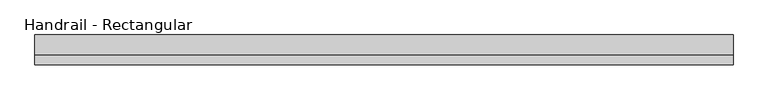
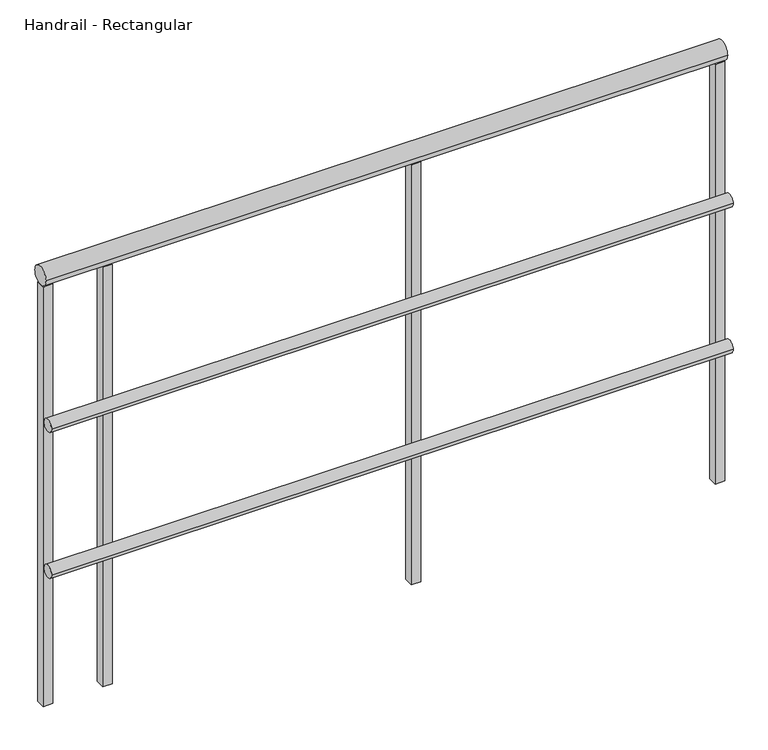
"""IFC4 building model written with IfcOpenShell, lengths in millimetres: railing geometry, Handrail - Rectangular."""

from ifc_helpers import new_model, si_unit, point, frame, frame_2d, origin, place, context, project, spatial, polyline, circle_curve, trimmed, segment, composite_curve, outline, extrude, source, transform, mapped, element, save


def handrail_rectangular_141b720c(model_context):
    return source(origin(), model_context, "Body", "SweptSolid", [
        extrude(outline(composite_curve([segment(trimmed(circle_curve(frame_2d((-35578.5683133, 3644.9)), 12.7), [point((-35591.2683133, 3644.9))], [point((-35565.8683133, 3644.9))], False, "CARTESIAN"), True, "CONTINUOUS"), segment(trimmed(circle_curve(frame_2d((-35578.5683133, 3644.9)), 12.7), [point((-35565.8683133, 3644.9))], [point((-35591.2683133, 3644.9))], False, "CARTESIAN"), True, "CONTINUOUS")], self_intersect=False)), frame((-25550.7839563, 0.0, 0.0), z_axis=(1.0, 0.0, 0.0), x_axis=(0.0, 1.0, 0.0)), (0.0, 0.0, 1.0), 1346.2),
        extrude(outline(composite_curve([segment(trimmed(circle_curve(frame_2d((-35578.5683133, 3340.1)), 12.7), [point((-35591.2683133, 3340.1))], [point((-35565.8683133, 3340.1))], False, "CARTESIAN"), True, "CONTINUOUS"), segment(trimmed(circle_curve(frame_2d((-35578.5683133, 3340.1)), 12.7), [point((-35565.8683133, 3340.1))], [point((-35591.2683133, 3340.1))], False, "CARTESIAN"), True, "CONTINUOUS")], self_intersect=False)), frame((-25550.7839563, 0.0, 0.0), z_axis=(1.0, 0.0, 0.0), x_axis=(0.0, 1.0, 0.0)), (0.0, 0.0, 1.0), 1346.2),
        extrude(outline(composite_curve([segment(trimmed(circle_curve(frame_2d((-35553.1683133, 3943.35)), 19.05), [point((-35572.2183133, 3943.35))], [point((-35534.1183133, 3943.35))], False, "CARTESIAN"), True, "CONTINUOUS"), segment(trimmed(circle_curve(frame_2d((-35553.1683133, 3943.35)), 19.05), [point((-35534.1183133, 3943.35))], [point((-35572.2183133, 3943.35))], False, "CARTESIAN"), True, "CONTINUOUS")], self_intersect=False)), frame((-25550.7839563, 0.0, 0.0), z_axis=(1.0, 0.0, 0.0), x_axis=(0.0, 1.0, 0.0)), (0.0, 0.0, 1.0), 1346.2),
        extrude(outline(polyline([(-25414.2589563, -35543.6433133), (-25414.2589563, -35562.6933133), (-25433.3089563, -35562.6933133), (-25433.3089563, -35543.6433133), (-25414.2589563, -35543.6433133)])), frame((0.0, 0.0, 3048.0), z_axis=(0.0, 0.0, 1.0), x_axis=(1.0, 0.0, 0.0)), (0.0, 0.0, 1.0), 876.3),
        extrude(outline(polyline([(-24804.6589563, -35543.6433133), (-24804.6589563, -35562.6933133), (-24823.7089563, -35562.6933133), (-24823.7089563, -35543.6433133), (-24804.6589563, -35543.6433133)])), frame((0.0, 0.0, 3048.0), z_axis=(0.0, 0.0, 1.0), x_axis=(1.0, 0.0, 0.0)), (0.0, 0.0, 1.0), 876.3),
        extrude(outline(polyline([(-25531.7339563, -35543.6433133), (-25531.7339563, -35562.6933133), (-25550.7839563, -35562.6933133), (-25550.7839563, -35543.6433133), (-25531.7339563, -35543.6433133)])), frame((0.0, 0.0, 3048.0), z_axis=(0.0, 0.0, 1.0), x_axis=(1.0, 0.0, 0.0)), (0.0, 0.0, 1.0), 876.3),
        extrude(outline(polyline([(-24204.5839563, -35543.6433133), (-24204.5839563, -35562.6933133), (-24223.6339563, -35562.6933133), (-24223.6339563, -35543.6433133), (-24204.5839563, -35543.6433133)])), frame((0.0, 0.0, 3048.0), z_axis=(0.0, 0.0, 1.0), x_axis=(1.0, 0.0, 0.0)), (0.0, 0.0, 1.0), 876.3),
    ])


if __name__ == "__main__":
    model = new_model("IFC4")
    model_context = context("Model", 3, world=origin())
    ifc_project = project(units=[si_unit("LENGTHUNIT", "METRE", prefix="MILLI")], contexts=[model_context])
    site = spatial("IfcSite", under=ifc_project)
    building = spatial("IfcBuilding", under=site)
    placement = place(None, origin())
    handrail_rectangular_shape = handrail_rectangular_141b720c(model_context)
    element("IfcRailing", 1, ObjectType="Handrail - Rectangular", at=placement, inside=building, context=model_context, shape_type="MappedRepresentation", body=[
        mapped(handrail_rectangular_shape, transform((0.0, 0.0, 0.0), x_axis=(1.0, 0.0, 0.0), y_axis=(0.0, 1.0, 0.0), z_axis=(0.0, 0.0, 1.0))),
    ])
    save(model, "model.ifc")
